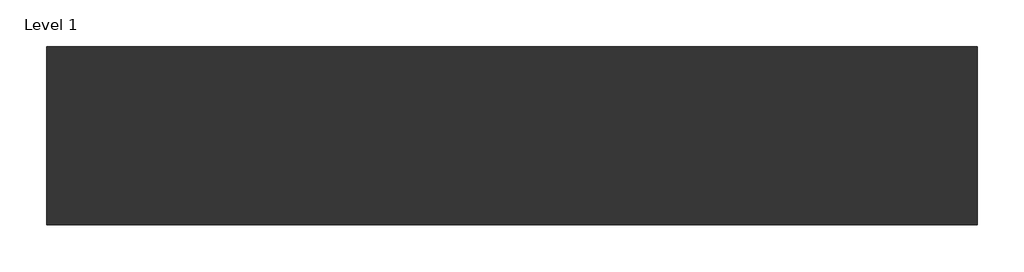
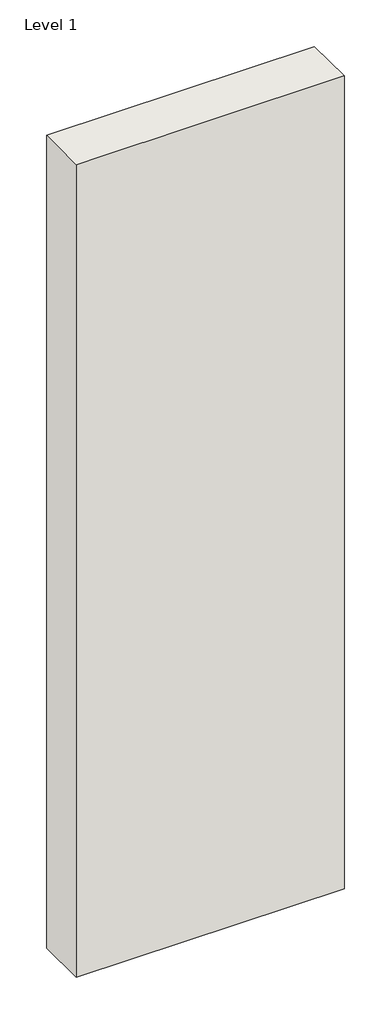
# One storey: 1 wall.
"""IFC4 building model written with IfcOpenShell, lengths in millimetres."""

from ifc_helpers import new_model, si_unit, origin, origin_with_axes, place, context, project, spatial, polyline, outline, extrude, element, save

model = new_model("IFC4")

# Units and contexts
model_context = context("Model", 3, world=origin())
ifc_project = project(units=[si_unit("LENGTHUNIT", "METRE", prefix="MILLI")], contexts=[model_context])

# Site, building, storey
site = spatial("IfcSite", under=ifc_project)
building = spatial("IfcBuilding", under=site)
storey = spatial("IfcBuildingStorey", under=building, Name="Level 1", Elevation=0.0)

# Wall
placement = place(None, origin())
element("IfcWall", 1, ObjectType="Tabique Doble – Placo® 230(90) 2xBA13 + 2x90LM + 2xBA13 c/400 - ≥ 55,9 dBA", at=placement, inside=storey, context=model_context, shape_type="SweptSolid", body=[
    extrude(outline(polyline([(-27296.4711674, -81283.0206549), (-28496.4711674, -81283.0206549), (-28496.4711674, -81053.0206549), (-27296.4711674, -81053.0206549), (-27296.4711674, -81283.0206549)])), origin_with_axes(), (0.0, 0.0, 1.0), 3850.0),
])

save(model, "model.ifc")
